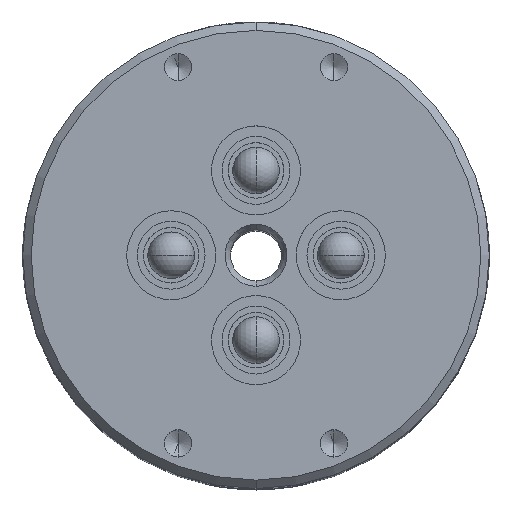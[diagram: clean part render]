
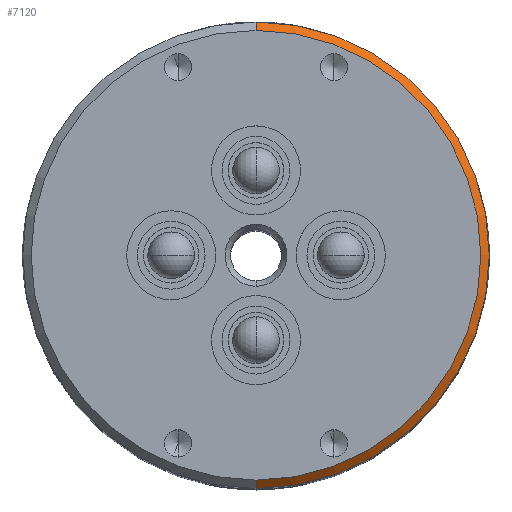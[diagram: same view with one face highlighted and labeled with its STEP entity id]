
A CAD part, top view. The second image highlights one B-rep face of the part: STEP entity #7120.
In plain terms, the highlighted conical face has half-angle 45 degrees and reference radius 43.65 mm.
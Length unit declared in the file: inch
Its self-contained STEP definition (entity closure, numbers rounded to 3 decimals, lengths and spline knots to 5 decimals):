
#374 = CONICAL_SURFACE ( 'NONE', #375, 1.7185, 0.785 ) ;
#375 = AXIS2_PLACEMENT_3D ( 'NONE', #3595, #3597, #3594 ) ;
#504 = CIRCLE ( 'NONE', #546, 1.7185 ) ;
#546 = AXIS2_PLACEMENT_3D ( 'NONE', #1826, #1827, #1828 ) ;
#1826 = CARTESIAN_POINT ( 'NONE',  ( 0., 6.222, 0. ) ) ;
#1827 = DIRECTION ( 'NONE',  ( 0., -1., 0. ) ) ;
#1828 = DIRECTION ( 'NONE',  ( 0., 0., 1. ) ) ;
#3594 = DIRECTION ( 'NONE',  ( 0., 0., -1. ) ) ;
#3595 = CARTESIAN_POINT ( 'NONE',  ( 0., 6.222, 0. ) ) ;
#3596 = FACE_OUTER_BOUND ( 'NONE', #8857, .T. ) ;
#3597 = DIRECTION ( 'NONE',  ( 0., -1., 0. ) ) ;
#5071 = CIRCLE ( 'NONE', #5074, 1.6565 ) ;
#5074 = AXIS2_PLACEMENT_3D ( 'NONE', #6109, #6110, #6111 ) ;
#5603 = CARTESIAN_POINT ( 'NONE',  ( 0., 6.284, -1.6565 ) ) ;
#5691 = CARTESIAN_POINT ( 'NONE',  ( 0., 6.284, 1.6565 ) ) ;
#5826 = CARTESIAN_POINT ( 'NONE',  ( 0., 6.222, 1.7185 ) ) ;
#5840 = CARTESIAN_POINT ( 'NONE',  ( 0., 6.222, -1.7185 ) ) ;
#6109 = CARTESIAN_POINT ( 'NONE',  ( 0., 6.284, 0. ) ) ;
#6110 = DIRECTION ( 'NONE',  ( 0., 1., 0. ) ) ;
#6111 = DIRECTION ( 'NONE',  ( 0., 0., 1. ) ) ;
#6609 = EDGE_CURVE ( 'NONE', #7296, #7764, #10103, .T. ) ;
#6610 = EDGE_CURVE ( 'NONE', #7615, #7750, #10102, .T. ) ;
#6930 = EDGE_CURVE ( 'NONE', #7764, #7750, #504, .T. ) ;
#7120 = ADVANCED_FACE ( 'NONE', ( #3596 ), #374, .T. ) ;
#7296 = VERTEX_POINT ( 'NONE', #5603 ) ;
#7615 = VERTEX_POINT ( 'NONE', #5691 ) ;
#7750 = VERTEX_POINT ( 'NONE', #5826 ) ;
#7764 = VERTEX_POINT ( 'NONE', #5840 ) ;
#8046 = EDGE_CURVE ( 'NONE', #7615, #7296, #5071, .T. ) ;
#8252 = VECTOR ( 'NONE', #10111, 39.37008 ) ;
#8274 = VECTOR ( 'NONE', #10108, 39.37008 ) ;
#8857 = EDGE_LOOP ( 'NONE', ( #9770, #9769, #9768, #9767 ) ) ;
#9767 = ORIENTED_EDGE ( 'NONE', *, *, #6609, .F. ) ;
#9768 = ORIENTED_EDGE ( 'NONE', *, *, #6930, .F. ) ;
#9769 = ORIENTED_EDGE ( 'NONE', *, *, #6610, .T. ) ;
#9770 = ORIENTED_EDGE ( 'NONE', *, *, #8046, .F. ) ;
#10099 = CARTESIAN_POINT ( 'NONE',  ( 0., 6.222, -1.7185 ) ) ;
#10102 = LINE ( 'NONE', #10109, #8252 ) ;
#10103 = LINE ( 'NONE', #10099, #8274 ) ;
#10108 = DIRECTION ( 'NONE',  ( 0., -0.707, -0.707 ) ) ;
#10109 = CARTESIAN_POINT ( 'NONE',  ( 0., 6.222, 1.7185 ) ) ;
#10111 = DIRECTION ( 'NONE',  ( 0., -0.707, 0.707 ) ) ;
